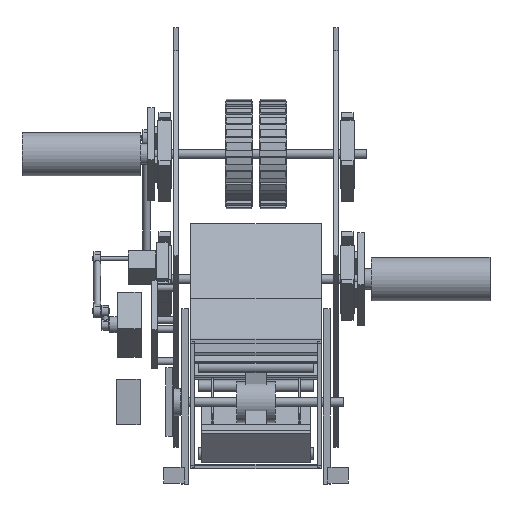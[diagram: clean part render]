
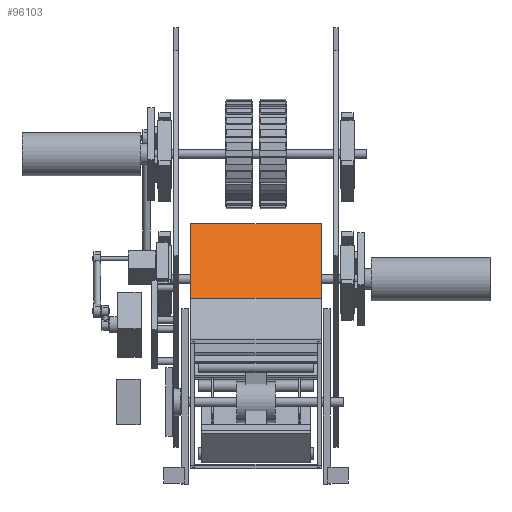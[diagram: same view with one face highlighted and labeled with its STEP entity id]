
A CAD part, left-side view. The second image highlights one B-rep face of the part: STEP entity #96103.
In plain terms, the highlighted planar face has unit normal (-0.788, 0, 0.616).
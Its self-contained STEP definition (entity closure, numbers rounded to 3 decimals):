
#95789 = VERTEX_POINT('',#95790);
#95790 = CARTESIAN_POINT('',(-75.333,-57.,163.917));
#95797 = PLANE('',#95798);
#95798 = AXIS2_PLACEMENT_3D('',#95799,#95800,#95801);
#95799 = CARTESIAN_POINT('',(-72.969,-57.,162.07));
#95800 = DIRECTION('',(0.616,0.,0.788));
#95801 = DIRECTION('',(-0.788,0.,0.616));
#95809 = PLANE('',#95810);
#95810 = AXIS2_PLACEMENT_3D('',#95811,#95812,#95813);
#95811 = CARTESIAN_POINT('',(-72.969,-57.,162.07));
#95812 = DIRECTION('',(0.,1.,0.));
#95813 = DIRECTION('',(-0.788,0.,0.616));
#95850 = VERTEX_POINT('',#95851);
#95851 = CARTESIAN_POINT('',(-75.333,57.,163.917));
#95865 = PLANE('',#95866);
#95866 = AXIS2_PLACEMENT_3D('',#95867,#95868,#95869);
#95867 = CARTESIAN_POINT('',(-72.969,57.,162.07));
#95868 = DIRECTION('',(0.,1.,0.));
#95869 = DIRECTION('',(-0.788,0.,0.616));
#95877 = EDGE_CURVE('',#95789,#95850,#95878,.T.);
#95878 = SURFACE_CURVE('',#95879,(#95883,#95890),.PCURVE_S1.);
#95879 = LINE('',#95880,#95881);
#95880 = CARTESIAN_POINT('',(-75.333,-57.,163.917));
#95881 = VECTOR('',#95882,1.);
#95882 = DIRECTION('',(0.,1.,0.));
#95883 = PCURVE('',#95797,#95884);
#95884 = DEFINITIONAL_REPRESENTATION('',(#95885),#95889);
#95885 = LINE('',#95886,#95887);
#95886 = CARTESIAN_POINT('',(3.,0.));
#95887 = VECTOR('',#95888,1.);
#95888 = DIRECTION('',(0.,-1.));
#95889 = ( GEOMETRIC_REPRESENTATION_CONTEXT(2) 
PARAMETRIC_REPRESENTATION_CONTEXT() REPRESENTATION_CONTEXT('2D SPACE',''
  ) );
#95890 = PCURVE('',#95891,#95896);
#95891 = PLANE('',#95892);
#95892 = AXIS2_PLACEMENT_3D('',#95893,#95894,#95895);
#95893 = CARTESIAN_POINT('',(-75.333,-57.,163.917));
#95894 = DIRECTION('',(-0.788,0.,0.616));
#95895 = DIRECTION('',(0.616,0.,0.788));
#95896 = DEFINITIONAL_REPRESENTATION('',(#95897),#95901);
#95897 = LINE('',#95898,#95899);
#95898 = CARTESIAN_POINT('',(0.,0.));
#95899 = VECTOR('',#95900,1.);
#95900 = DIRECTION('',(0.,1.));
#95901 = ( GEOMETRIC_REPRESENTATION_CONTEXT(2) 
PARAMETRIC_REPRESENTATION_CONTEXT() REPRESENTATION_CONTEXT('2D SPACE',''
  ) );
#95909 = VERTEX_POINT('',#95910);
#95910 = CARTESIAN_POINT('',(-24.233,-57.,229.322));
#95917 = PLANE('',#95918);
#95918 = AXIS2_PLACEMENT_3D('',#95919,#95920,#95921);
#95919 = CARTESIAN_POINT('',(-21.869,-57.,227.475));
#95920 = DIRECTION('',(0.616,0.,0.788));
#95921 = DIRECTION('',(-0.788,0.,0.616));
#95960 = VERTEX_POINT('',#95961);
#95961 = CARTESIAN_POINT('',(-24.233,57.,229.322));
#95982 = EDGE_CURVE('',#95909,#95960,#95983,.T.);
#95983 = SURFACE_CURVE('',#95984,(#95988,#95995),.PCURVE_S1.);
#95984 = LINE('',#95985,#95986);
#95985 = CARTESIAN_POINT('',(-24.233,-57.,229.322));
#95986 = VECTOR('',#95987,1.);
#95987 = DIRECTION('',(0.,1.,0.));
#95988 = PCURVE('',#95917,#95989);
#95989 = DEFINITIONAL_REPRESENTATION('',(#95990),#95994);
#95990 = LINE('',#95991,#95992);
#95991 = CARTESIAN_POINT('',(3.,0.));
#95992 = VECTOR('',#95993,1.);
#95993 = DIRECTION('',(0.,-1.));
#95994 = ( GEOMETRIC_REPRESENTATION_CONTEXT(2) 
PARAMETRIC_REPRESENTATION_CONTEXT() REPRESENTATION_CONTEXT('2D SPACE',''
  ) );
#95995 = PCURVE('',#95891,#95996);
#95996 = DEFINITIONAL_REPRESENTATION('',(#95997),#96001);
#95997 = LINE('',#95998,#95999);
#95998 = CARTESIAN_POINT('',(83.,0.));
#95999 = VECTOR('',#96000,1.);
#96000 = DIRECTION('',(0.,1.));
#96001 = ( GEOMETRIC_REPRESENTATION_CONTEXT(2) 
PARAMETRIC_REPRESENTATION_CONTEXT() REPRESENTATION_CONTEXT('2D SPACE',''
  ) );
#96028 = EDGE_CURVE('',#95789,#95909,#96029,.T.);
#96029 = SURFACE_CURVE('',#96030,(#96034,#96041),.PCURVE_S1.);
#96030 = LINE('',#96031,#96032);
#96031 = CARTESIAN_POINT('',(-75.333,-57.,163.917));
#96032 = VECTOR('',#96033,1.);
#96033 = DIRECTION('',(0.616,0.,0.788));
#96034 = PCURVE('',#95809,#96035);
#96035 = DEFINITIONAL_REPRESENTATION('',(#96036),#96040);
#96036 = LINE('',#96037,#96038);
#96037 = CARTESIAN_POINT('',(3.,0.));
#96038 = VECTOR('',#96039,1.);
#96039 = DIRECTION('',(0.,1.));
#96040 = ( GEOMETRIC_REPRESENTATION_CONTEXT(2) 
PARAMETRIC_REPRESENTATION_CONTEXT() REPRESENTATION_CONTEXT('2D SPACE',''
  ) );
#96041 = PCURVE('',#95891,#96042);
#96042 = DEFINITIONAL_REPRESENTATION('',(#96043),#96047);
#96043 = LINE('',#96044,#96045);
#96044 = CARTESIAN_POINT('',(0.,0.));
#96045 = VECTOR('',#96046,1.);
#96046 = DIRECTION('',(1.,0.));
#96047 = ( GEOMETRIC_REPRESENTATION_CONTEXT(2) 
PARAMETRIC_REPRESENTATION_CONTEXT() REPRESENTATION_CONTEXT('2D SPACE',''
  ) );
#96075 = EDGE_CURVE('',#95850,#95960,#96076,.T.);
#96076 = SURFACE_CURVE('',#96077,(#96081,#96088),.PCURVE_S1.);
#96077 = LINE('',#96078,#96079);
#96078 = CARTESIAN_POINT('',(-75.333,57.,163.917));
#96079 = VECTOR('',#96080,1.);
#96080 = DIRECTION('',(0.616,0.,0.788));
#96081 = PCURVE('',#95865,#96082);
#96082 = DEFINITIONAL_REPRESENTATION('',(#96083),#96087);
#96083 = LINE('',#96084,#96085);
#96084 = CARTESIAN_POINT('',(3.,0.));
#96085 = VECTOR('',#96086,1.);
#96086 = DIRECTION('',(0.,1.));
#96087 = ( GEOMETRIC_REPRESENTATION_CONTEXT(2) 
PARAMETRIC_REPRESENTATION_CONTEXT() REPRESENTATION_CONTEXT('2D SPACE',''
  ) );
#96088 = PCURVE('',#95891,#96089);
#96089 = DEFINITIONAL_REPRESENTATION('',(#96090),#96094);
#96090 = LINE('',#96091,#96092);
#96091 = CARTESIAN_POINT('',(0.,114.));
#96092 = VECTOR('',#96093,1.);
#96093 = DIRECTION('',(1.,0.));
#96094 = ( GEOMETRIC_REPRESENTATION_CONTEXT(2) 
PARAMETRIC_REPRESENTATION_CONTEXT() REPRESENTATION_CONTEXT('2D SPACE',''
  ) );
#96103 = ADVANCED_FACE('',(#96104),#95891,.T.);
#96104 = FACE_BOUND('',#96105,.T.);
#96105 = EDGE_LOOP('',(#96106,#96107,#96108,#96109));
#96106 = ORIENTED_EDGE('',*,*,#95877,.F.);
#96107 = ORIENTED_EDGE('',*,*,#96028,.T.);
#96108 = ORIENTED_EDGE('',*,*,#95982,.T.);
#96109 = ORIENTED_EDGE('',*,*,#96075,.F.);
